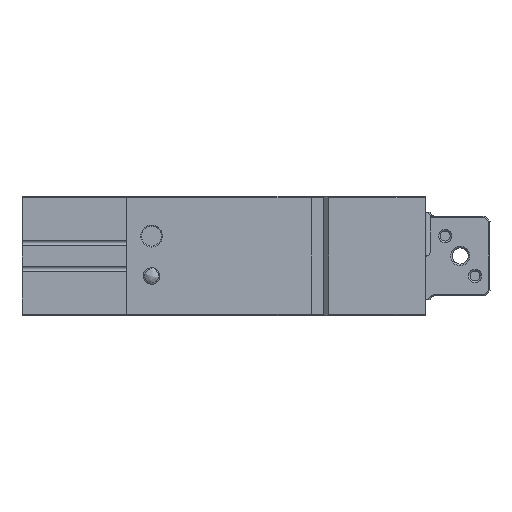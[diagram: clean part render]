
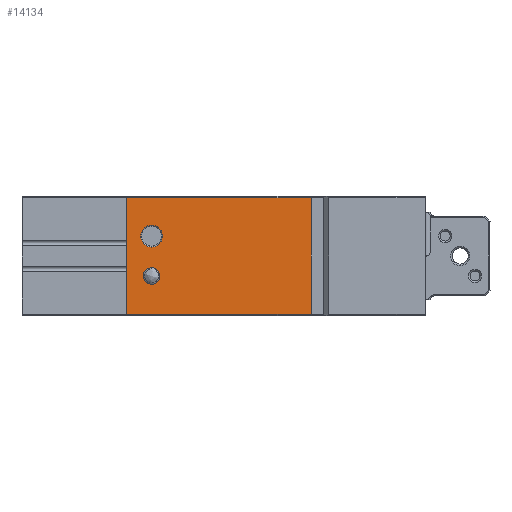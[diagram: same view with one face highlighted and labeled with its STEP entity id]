
A CAD part, front view. The second image highlights one B-rep face of the part: STEP entity #14134.
In plain terms, the highlighted planar face has unit normal (0, -1, 0).
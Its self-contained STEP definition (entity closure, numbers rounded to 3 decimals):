
#138 = ORIENTED_EDGE ( 'NONE', *, *, #445, .F. ) ;
#235 = EDGE_CURVE ( 'NONE', #2262, #12591, #15398, .T. ) ;
#445 = EDGE_CURVE ( 'NONE', #18288, #3735, #12527, .T. ) ;
#492 = VERTEX_POINT ( 'NONE', #6289 ) ;
#561 = DIRECTION ( 'NONE',  ( 0., 0., -1. ) ) ;
#927 = AXIS2_PLACEMENT_3D ( 'NONE', #13286, #10053, #5155 ) ;
#1019 = VERTEX_POINT ( 'NONE', #13392 ) ;
#1079 = EDGE_CURVE ( 'NONE', #1396, #2262, #4532, .T. ) ;
#1360 = VECTOR ( 'NONE', #18785, 1000. ) ;
#1396 = VERTEX_POINT ( 'NONE', #16340 ) ;
#1560 = LINE ( 'NONE', #5691, #13138 ) ;
#2015 = DIRECTION ( 'NONE',  ( 0., -1., 0. ) ) ;
#2187 = CARTESIAN_POINT ( 'NONE',  ( 68.267, -15., -3.709 ) ) ;
#2262 = VERTEX_POINT ( 'NONE', #17894 ) ;
#2415 = CARTESIAN_POINT ( 'NONE',  ( 63.267, -15., -11.409 ) ) ;
#2562 = VERTEX_POINT ( 'NONE', #2736 ) ;
#2736 = CARTESIAN_POINT ( 'NONE',  ( 63.267, -15., -11.409 ) ) ;
#3121 = AXIS2_PLACEMENT_3D ( 'NONE', #20485, #10435, #20333 ) ;
#3735 = VERTEX_POINT ( 'NONE', #7431 ) ;
#3755 = VECTOR ( 'NONE', #18358, 1000. ) ;
#3917 = VERTEX_POINT ( 'NONE', #4533 ) ;
#4176 = DIRECTION ( 'NONE',  ( 0., 0., -1. ) ) ;
#4210 = ORIENTED_EDGE ( 'NONE', *, *, #20683, .F. ) ;
#4532 = CIRCLE ( 'NONE', #3121, 2.2 ) ;
#4533 = CARTESIAN_POINT ( 'NONE',  ( 66.617, -15., -3.709 ) ) ;
#4705 = ORIENTED_EDGE ( 'NONE', *, *, #15539, .F. ) ;
#4801 = CARTESIAN_POINT ( 'NONE',  ( 100.267, -15., 11.991 ) ) ;
#5077 = CIRCLE ( 'NONE', #7330, 2.2 ) ;
#5155 = DIRECTION ( 'NONE',  ( 0., 0., -1. ) ) ;
#5691 = CARTESIAN_POINT ( 'NONE',  ( 63.267, -15., 11.991 ) ) ;
#5843 = VERTEX_POINT ( 'NONE', #19884 ) ;
#5845 = VECTOR ( 'NONE', #19179, 1000. ) ;
#6116 = FACE_BOUND ( 'NONE', #15720, .T. ) ;
#6289 = CARTESIAN_POINT ( 'NONE',  ( 68.267, -15., -5.359 ) ) ;
#6563 = LINE ( 'NONE', #15238, #3755 ) ;
#6845 = CARTESIAN_POINT ( 'NONE',  ( 68.267, -15., 2.091 ) ) ;
#6896 = CARTESIAN_POINT ( 'NONE',  ( 68.267, -15., 4.291 ) ) ;
#7074 = CARTESIAN_POINT ( 'NONE',  ( 68.267, -15., 4.291 ) ) ;
#7195 = ORIENTED_EDGE ( 'NONE', *, *, #17298, .F. ) ;
#7223 = DIRECTION ( 'NONE',  ( 0., 0., -1. ) ) ;
#7290 = LINE ( 'NONE', #2415, #1360 ) ;
#7330 = AXIS2_PLACEMENT_3D ( 'NONE', #6896, #2015, #561 ) ;
#7431 = CARTESIAN_POINT ( 'NONE',  ( 100.267, -15., -11.409 ) ) ;
#7438 = ORIENTED_EDGE ( 'NONE', *, *, #14570, .F. ) ;
#7492 = CARTESIAN_POINT ( 'NONE',  ( 68.267, -15., -3.709 ) ) ;
#8023 = EDGE_CURVE ( 'NONE', #5843, #18288, #1560, .T. ) ;
#8408 = EDGE_LOOP ( 'NONE', ( #4705, #7195, #138, #18663 ) ) ;
#9000 = DIRECTION ( 'NONE',  ( 0., -1., 0. ) ) ;
#9429 = AXIS2_PLACEMENT_3D ( 'NONE', #2187, #12115, #18761 ) ;
#10053 = DIRECTION ( 'NONE',  ( 0., -1., 0. ) ) ;
#10074 = CIRCLE ( 'NONE', #927, 1.65 ) ;
#10091 = CIRCLE ( 'NONE', #9429, 1.65 ) ;
#10377 = DIRECTION ( 'NONE',  ( 0., 0., 1. ) ) ;
#10435 = DIRECTION ( 'NONE',  ( 0., -1., 0. ) ) ;
#10500 = FACE_OUTER_BOUND ( 'NONE', #8408, .T. ) ;
#12070 = AXIS2_PLACEMENT_3D ( 'NONE', #7074, #17246, #7223 ) ;
#12115 = DIRECTION ( 'NONE',  ( 0., -1., 0. ) ) ;
#12508 = ORIENTED_EDGE ( 'NONE', *, *, #235, .F. ) ;
#12527 = LINE ( 'NONE', #15638, #5845 ) ;
#12591 = VERTEX_POINT ( 'NONE', #6845 ) ;
#12963 = AXIS2_PLACEMENT_3D ( 'NONE', #20345, #13692, #10377 ) ;
#13138 = VECTOR ( 'NONE', #17238, 1000. ) ;
#13286 = CARTESIAN_POINT ( 'NONE',  ( 68.267, -15., -3.709 ) ) ;
#13392 = CARTESIAN_POINT ( 'NONE',  ( 69.917, -15., -3.709 ) ) ;
#13653 = ORIENTED_EDGE ( 'NONE', *, *, #1079, .F. ) ;
#13692 = DIRECTION ( 'NONE',  ( 0., 1., 0. ) ) ;
#14134 = ADVANCED_FACE ( 'NONE', ( #6116, #19046, #10500 ), #15566, .F. ) ;
#14570 = EDGE_CURVE ( 'NONE', #12591, #1396, #5077, .T. ) ;
#15238 = CARTESIAN_POINT ( 'NONE',  ( 63.267, -15., -11.709 ) ) ;
#15297 = EDGE_LOOP ( 'NONE', ( #13653, #7438, #12508 ) ) ;
#15398 = CIRCLE ( 'NONE', #12070, 2.2 ) ;
#15539 = EDGE_CURVE ( 'NONE', #2562, #5843, #6563, .T. ) ;
#15566 = PLANE ( 'NONE',  #12963 ) ;
#15638 = CARTESIAN_POINT ( 'NONE',  ( 100.267, -15., -11.709 ) ) ;
#15720 = EDGE_LOOP ( 'NONE', ( #18568, #4210, #16577 ) ) ;
#16340 = CARTESIAN_POINT ( 'NONE',  ( 70.467, -15., 4.291 ) ) ;
#16577 = ORIENTED_EDGE ( 'NONE', *, *, #18037, .F. ) ;
#16649 = AXIS2_PLACEMENT_3D ( 'NONE', #7492, #9000, #4176 ) ;
#17238 = DIRECTION ( 'NONE',  ( 1., 0., 0. ) ) ;
#17246 = DIRECTION ( 'NONE',  ( 0., -1., 0. ) ) ;
#17298 = EDGE_CURVE ( 'NONE', #3735, #2562, #7290, .T. ) ;
#17693 = EDGE_CURVE ( 'NONE', #1019, #3917, #10091, .T. ) ;
#17894 = CARTESIAN_POINT ( 'NONE',  ( 66.067, -15., 4.291 ) ) ;
#18037 = EDGE_CURVE ( 'NONE', #3917, #492, #19910, .T. ) ;
#18288 = VERTEX_POINT ( 'NONE', #4801 ) ;
#18358 = DIRECTION ( 'NONE',  ( 0., 0., 1. ) ) ;
#18568 = ORIENTED_EDGE ( 'NONE', *, *, #17693, .F. ) ;
#18663 = ORIENTED_EDGE ( 'NONE', *, *, #8023, .F. ) ;
#18761 = DIRECTION ( 'NONE',  ( -1., 0., 0. ) ) ;
#18785 = DIRECTION ( 'NONE',  ( -1., 0., 0. ) ) ;
#19046 = FACE_BOUND ( 'NONE', #15297, .T. ) ;
#19179 = DIRECTION ( 'NONE',  ( 0., 0., -1. ) ) ;
#19884 = CARTESIAN_POINT ( 'NONE',  ( 63.267, -15., 11.991 ) ) ;
#19910 = CIRCLE ( 'NONE', #16649, 1.65 ) ;
#20333 = DIRECTION ( 'NONE',  ( -1., 0., 0. ) ) ;
#20345 = CARTESIAN_POINT ( 'NONE',  ( 63.267, -15., -11.709 ) ) ;
#20485 = CARTESIAN_POINT ( 'NONE',  ( 68.267, -15., 4.291 ) ) ;
#20683 = EDGE_CURVE ( 'NONE', #492, #1019, #10074, .T. ) ;
